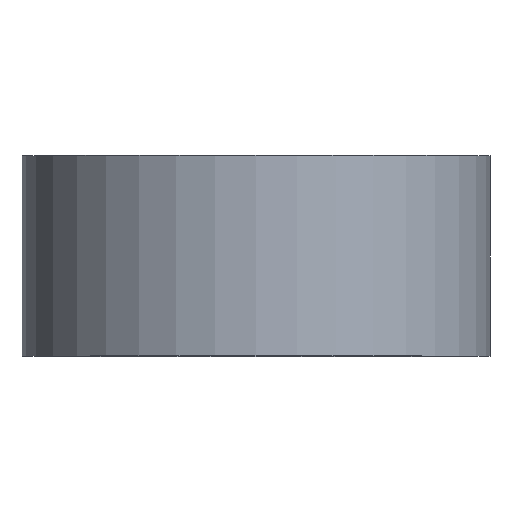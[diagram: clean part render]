
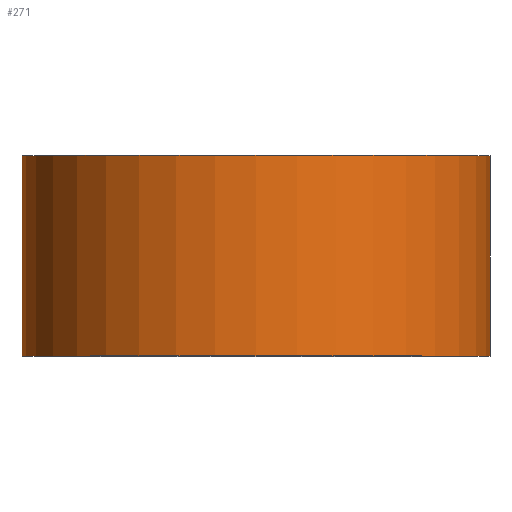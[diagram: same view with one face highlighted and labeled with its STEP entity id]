
A CAD part, top view. The second image highlights one B-rep face of the part: STEP entity #271.
In plain terms, the highlighted cylindrical face has radius 35 mm (diameter 70 mm), a partial arc.
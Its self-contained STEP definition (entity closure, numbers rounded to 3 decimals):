
#4 = ORIENTED_EDGE ( 'NONE', *, *, #263, .T. ) ;
#10 = CARTESIAN_POINT ( 'NONE',  ( 35., 0., 0. ) ) ;
#13 = ORIENTED_EDGE ( 'NONE', *, *, #47, .T. ) ;
#30 = CIRCLE ( 'NONE', #132, 35. ) ;
#43 = CARTESIAN_POINT ( 'NONE',  ( 0., 30., 0. ) ) ;
#47 = EDGE_CURVE ( 'NONE', #203, #127, #75, .T. ) ;
#50 = ORIENTED_EDGE ( 'NONE', *, *, #73, .F. ) ;
#64 = CARTESIAN_POINT ( 'NONE',  ( 0., 0., 0. ) ) ;
#72 = CARTESIAN_POINT ( 'NONE',  ( -35., 0., 0. ) ) ;
#73 = EDGE_CURVE ( 'NONE', #203, #252, #233, .T. ) ;
#75 = CIRCLE ( 'NONE', #111, 35. ) ;
#92 = LINE ( 'NONE', #213, #172 ) ;
#95 = AXIS2_PLACEMENT_3D ( 'NONE', #64, #199, #291 ) ;
#107 = CARTESIAN_POINT ( 'NONE',  ( -35., 30., 0. ) ) ;
#111 = AXIS2_PLACEMENT_3D ( 'NONE', #235, #236, #284 ) ;
#113 = VECTOR ( 'NONE', #141, 1000. ) ;
#114 = ORIENTED_EDGE ( 'NONE', *, *, #259, .F. ) ;
#127 = VERTEX_POINT ( 'NONE', #10 ) ;
#131 = CARTESIAN_POINT ( 'NONE',  ( -35., 0., 0. ) ) ;
#132 = AXIS2_PLACEMENT_3D ( 'NONE', #43, #217, #179 ) ;
#141 = DIRECTION ( 'NONE',  ( 0., 1., 0. ) ) ;
#167 = VERTEX_POINT ( 'NONE', #174 ) ;
#172 = VECTOR ( 'NONE', #269, 1000. ) ;
#174 = CARTESIAN_POINT ( 'NONE',  ( 35., 30., 0. ) ) ;
#179 = DIRECTION ( 'NONE',  ( -1., 0., 0. ) ) ;
#182 = EDGE_LOOP ( 'NONE', ( #13, #4, #114, #50 ) ) ;
#199 = DIRECTION ( 'NONE',  ( 0., 1., 0. ) ) ;
#203 = VERTEX_POINT ( 'NONE', #131 ) ;
#213 = CARTESIAN_POINT ( 'NONE',  ( 35., 0., 0. ) ) ;
#217 = DIRECTION ( 'NONE',  ( 0., 1., 0. ) ) ;
#223 = CYLINDRICAL_SURFACE ( 'NONE', #95, 35. ) ;
#233 = LINE ( 'NONE', #72, #113 ) ;
#235 = CARTESIAN_POINT ( 'NONE',  ( 0., 0., 0. ) ) ;
#236 = DIRECTION ( 'NONE',  ( 0., 1., 0. ) ) ;
#252 = VERTEX_POINT ( 'NONE', #107 ) ;
#256 = FACE_OUTER_BOUND ( 'NONE', #182, .T. ) ;
#259 = EDGE_CURVE ( 'NONE', #252, #167, #30, .T. ) ;
#263 = EDGE_CURVE ( 'NONE', #127, #167, #92, .T. ) ;
#269 = DIRECTION ( 'NONE',  ( 0., 1., 0. ) ) ;
#271 = ADVANCED_FACE ( 'NONE', ( #256 ), #223, .T. ) ;
#284 = DIRECTION ( 'NONE',  ( -1., 0., 0. ) ) ;
#291 = DIRECTION ( 'NONE',  ( -1., 0., 0. ) ) ;
